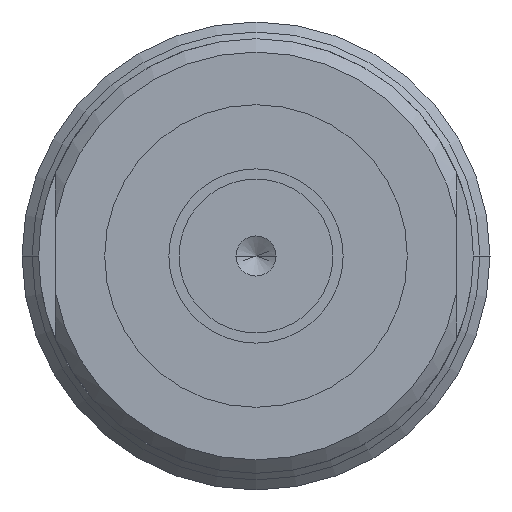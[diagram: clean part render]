
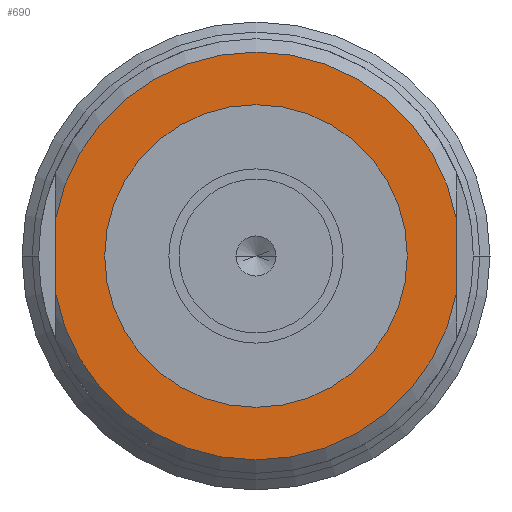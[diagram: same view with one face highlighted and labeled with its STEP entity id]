
A CAD part, left-side view. The second image highlights one B-rep face of the part: STEP entity #690.
In plain terms, the highlighted planar face has unit normal (-1, 0, 0).
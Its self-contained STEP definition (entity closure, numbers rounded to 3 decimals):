
#165=CARTESIAN_POINT('',(0.,0.,0.));
#166=DIRECTION('',(1.,0.,0.));
#167=DIRECTION('',(0.,1.,0.));
#168=AXIS2_PLACEMENT_3D('',#165,#166,#167);
#170=CARTESIAN_POINT('',(0.,0.,0.));
#171=DIRECTION('',(1.,0.,0.));
#172=DIRECTION('',(0.,-1.,0.));
#173=AXIS2_PLACEMENT_3D('',#170,#171,#172);
#175=DIRECTION('',(0.,0.,1.));
#176=VECTOR('',#175,5.5);
#177=CARTESIAN_POINT('',(0.,15.,-2.75));
#178=LINE('',#177,#176);
#179=CARTESIAN_POINT('',(0.,0.,0.));
#180=DIRECTION('',(-1.,0.,0.));
#181=DIRECTION('',(0.,-0.984,0.18));
#182=AXIS2_PLACEMENT_3D('',#179,#180,#181);
#184=DIRECTION('',(0.,0.,-1.));
#185=VECTOR('',#184,5.5);
#186=CARTESIAN_POINT('',(0.,-15.,2.75));
#187=LINE('',#186,#185);
#188=CARTESIAN_POINT('',(0.,0.,0.));
#189=DIRECTION('',(-1.,0.,0.));
#190=DIRECTION('',(0.,0.984,-0.18));
#191=AXIS2_PLACEMENT_3D('',#188,#189,#190);
#395=CARTESIAN_POINT('',(0.,11.316,0.));
#396=CARTESIAN_POINT('',(0.,-11.316,0.));
#397=VERTEX_POINT('',#395);
#398=VERTEX_POINT('',#396);
#427=CARTESIAN_POINT('',(0.,15.,-2.75));
#428=CARTESIAN_POINT('',(0.,15.,2.75));
#429=VERTEX_POINT('',#427);
#430=VERTEX_POINT('',#428);
#431=CARTESIAN_POINT('',(0.,-15.,2.75));
#432=CARTESIAN_POINT('',(0.,-15.,-2.75));
#433=VERTEX_POINT('',#431);
#434=VERTEX_POINT('',#432);
#673=CARTESIAN_POINT('',(0.,0.,0.));
#674=DIRECTION('',(1.,0.,0.));
#675=DIRECTION('',(0.,-1.,0.));
#676=AXIS2_PLACEMENT_3D('',#673,#674,#675);
#677=PLANE('',#676);
#678=ORIENTED_EDGE('',*,*,#602,.T.);
#679=ORIENTED_EDGE('',*,*,#621,.F.);
#680=ORIENTED_EDGE('',*,*,#637,.T.);
#681=ORIENTED_EDGE('',*,*,#666,.F.);
#682=EDGE_LOOP('',(#678,#679,#680,#681));
#683=FACE_OUTER_BOUND('',#682,.F.);
#685=ORIENTED_EDGE('',*,*,#684,.F.);
#687=ORIENTED_EDGE('',*,*,#686,.F.);
#688=EDGE_LOOP('',(#685,#687));
#689=FACE_BOUND('',#688,.F.);
#690=ADVANCED_FACE('',(#683,#689),#677,.F.);
#169=CIRCLE('',#168,11.316);
#174=CIRCLE('',#173,11.316);
#183=CIRCLE('',#182,15.25);
#192=CIRCLE('',#191,15.25);
#602=EDGE_CURVE('',#429,#430,#178,.T.);
#621=EDGE_CURVE('',#433,#430,#183,.T.);
#637=EDGE_CURVE('',#433,#434,#187,.T.);
#666=EDGE_CURVE('',#429,#434,#192,.T.);
#684=EDGE_CURVE('',#397,#398,#169,.T.);
#686=EDGE_CURVE('',#398,#397,#174,.T.);
